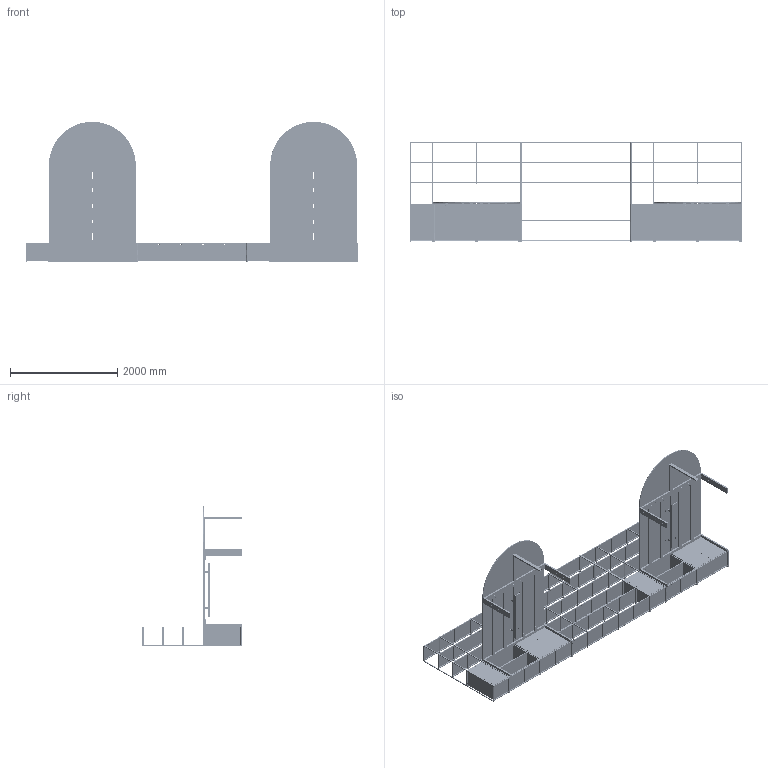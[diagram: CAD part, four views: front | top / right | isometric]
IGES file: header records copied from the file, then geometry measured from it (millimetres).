
Start section: SolidWorks IGES file using analytic representation for surfaces
Global section: file name: C:\Users\hcaixa\Documents\Gabinete Tecnico\72_produtos cliente\Timsteel\Mesas\Mesas Escritorio Operativas\Sistema Level Timsteel\AREIA-STUDIO FURNITURE CONCEPT\IGS\MOD 1.IGS; native system: SolidWorks 2014; preprocessor: SolidWorks 2014; author: hcaixa; date: 190703.123127; units: millimetre
Bounding box: 6198 x 1862.8 x 2620 mm (x, y, z)
Surface area: 68341372.5 mm2 (no closed solid volume)
Topology: 0 solids, 0 shells, 8614 faces, 118820 edges, 118576 vertices
Faces by surface type: revolution 4708, bspline 3906
